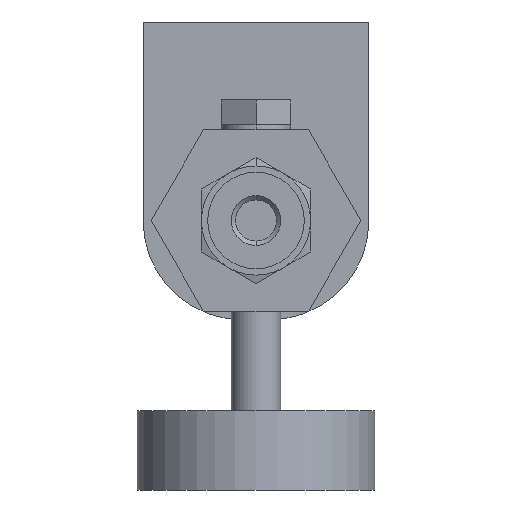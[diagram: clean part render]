
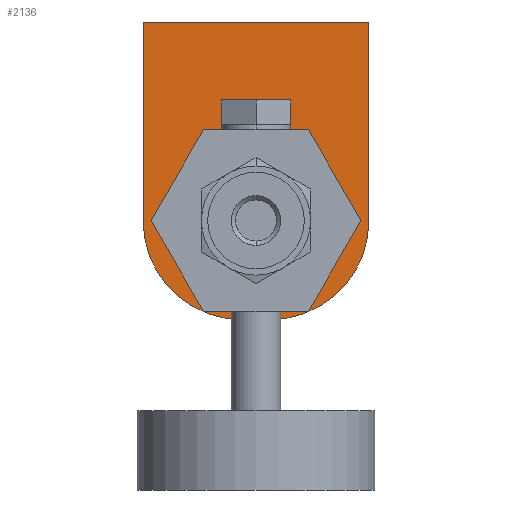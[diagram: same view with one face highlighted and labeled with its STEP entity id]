
A CAD part, front view. The second image highlights one B-rep face of the part: STEP entity #2136.
In plain terms, the highlighted planar face has unit normal (0, -1, 0).
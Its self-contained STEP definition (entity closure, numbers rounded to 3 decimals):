
#55 = VECTOR ( 'NONE', #187, 1000. ) ;
#63 = VECTOR ( 'NONE', #3833, 1000. ) ;
#68 = VECTOR ( 'NONE', #3480, 1000. ) ;
#108 = CARTESIAN_POINT ( 'NONE',  ( -10.566, 50.2, 0. ) ) ;
#115 = ORIENTED_EDGE ( 'NONE', *, *, #700, .T. ) ;
#132 = CARTESIAN_POINT ( 'NONE',  ( 11.381, 50.2, 20. ) ) ;
#187 = DIRECTION ( 'NONE',  ( 1., 0., 0. ) ) ;
#204 = CARTESIAN_POINT ( 'NONE',  ( 5.283, 50.2, -9.15 ) ) ;
#228 = CARTESIAN_POINT ( 'NONE',  ( 5.283, 50.2, 9.15 ) ) ;
#230 = EDGE_CURVE ( 'NONE', #1134, #562, #1896, .T. ) ;
#257 = EDGE_CURVE ( 'NONE', #2818, #2196, #1615, .T. ) ;
#289 = EDGE_LOOP ( 'NONE', ( #2390, #1824, #2315, #3127, #3620, #363 ) ) ;
#308 = CARTESIAN_POINT ( 'NONE',  ( 11.381, 50.2, 0. ) ) ;
#363 = ORIENTED_EDGE ( 'NONE', *, *, #1506, .T. ) ;
#385 = CARTESIAN_POINT ( 'NONE',  ( -5.283, 50.2, 9.15 ) ) ;
#438 = AXIS2_PLACEMENT_3D ( 'NONE', #1551, #3649, #1848 ) ;
#562 = VERTEX_POINT ( 'NONE', #2153 ) ;
#632 = EDGE_CURVE ( 'NONE', #3670, #959, #3581, .T. ) ;
#700 = EDGE_CURVE ( 'NONE', #1766, #562, #3015, .T. ) ;
#733 = CARTESIAN_POINT ( 'NONE',  ( 0., 50.2, -9.15 ) ) ;
#748 = FACE_BOUND ( 'NONE', #289, .T. ) ;
#761 = DIRECTION ( 'NONE',  ( 0., -1., 0. ) ) ;
#775 = CARTESIAN_POINT ( 'NONE',  ( -11.381, 50.2, 20. ) ) ;
#811 = CARTESIAN_POINT ( 'NONE',  ( 10.566, 50.2, 0. ) ) ;
#823 = CARTESIAN_POINT ( 'NONE',  ( 0., 50.2, 9.15 ) ) ;
#842 = LINE ( 'NONE', #3526, #63 ) ;
#851 = B_SPLINE_CURVE_WITH_KNOTS ( 'NONE', 3,
 ( #1675, #3481, #1984, #204 ),
 .UNSPECIFIED., .F., .F.,
 ( 4, 4 ),
 ( 0., 1. ),
 .UNSPECIFIED. ) ;
#959 = VERTEX_POINT ( 'NONE', #1660 ) ;
#986 = CARTESIAN_POINT ( 'NONE',  ( -7.044, 50.2, 6.1 ) ) ;
#1032 = B_SPLINE_CURVE_WITH_KNOTS ( 'NONE', 3,
 ( #108, #1878, #986, #3081 ),
 .UNSPECIFIED., .F., .F.,
 ( 4, 4 ),
 ( 0., 1. ),
 .UNSPECIFIED. ) ;
#1133 = CARTESIAN_POINT ( 'NONE',  ( -11.381, 50.2, -10. ) ) ;
#1134 = VERTEX_POINT ( 'NONE', #3742 ) ;
#1237 = CARTESIAN_POINT ( 'NONE',  ( -11.381, 50.2, 20. ) ) ;
#1240 = B_SPLINE_CURVE_WITH_KNOTS ( 'NONE', 3,
 ( #228, #2006, #2600, #811 ),
 .UNSPECIFIED., .F., .F.,
 ( 4, 4 ),
 ( 0., 1. ),
 .UNSPECIFIED. ) ;
#1258 = CIRCLE ( 'NONE', #438, 10. ) ;
#1452 = FACE_OUTER_BOUND ( 'NONE', #3817, .T. ) ;
#1481 = VERTEX_POINT ( 'NONE', #132 ) ;
#1491 = CARTESIAN_POINT ( 'NONE',  ( 10.566, 50.2, 0. ) ) ;
#1506 = EDGE_CURVE ( 'NONE', #3398, #3670, #3516, .T. ) ;
#1521 = CARTESIAN_POINT ( 'NONE',  ( -5.283, 50.2, -9.15 ) ) ;
#1530 = VERTEX_POINT ( 'NONE', #1237 ) ;
#1551 = CARTESIAN_POINT ( 'NONE',  ( 1.381, 50.2, 0. ) ) ;
#1572 = EDGE_CURVE ( 'NONE', #1530, #1481, #2786, .T. ) ;
#1615 = LINE ( 'NONE', #823, #55 ) ;
#1623 = VECTOR ( 'NONE', #3033, 1000. ) ;
#1660 = CARTESIAN_POINT ( 'NONE',  ( -10.566, 50.2, 0. ) ) ;
#1675 = CARTESIAN_POINT ( 'NONE',  ( 10.566, 50.2, 0. ) ) ;
#1698 = CARTESIAN_POINT ( 'NONE',  ( 0., 50.2, 0. ) ) ;
#1754 = CARTESIAN_POINT ( 'NONE',  ( -5.283, 50.2, -9.15 ) ) ;
#1766 = VERTEX_POINT ( 'NONE', #2165 ) ;
#1820 = AXIS2_PLACEMENT_3D ( 'NONE', #1698, #3788, #2002 ) ;
#1824 = ORIENTED_EDGE ( 'NONE', *, *, #1886, .T. ) ;
#1848 = DIRECTION ( 'NONE',  ( 0., 0., -1. ) ) ;
#1854 = CARTESIAN_POINT ( 'NONE',  ( -11.381, 50.2, 20. ) ) ;
#1878 = CARTESIAN_POINT ( 'NONE',  ( -8.805, 50.2, 3.05 ) ) ;
#1886 = EDGE_CURVE ( 'NONE', #959, #2818, #1032, .T. ) ;
#1896 = LINE ( 'NONE', #1133, #3228 ) ;
#1957 = ORIENTED_EDGE ( 'NONE', *, *, #1572, .F. ) ;
#1984 = CARTESIAN_POINT ( 'NONE',  ( 7.044, 50.2, -6.1 ) ) ;
#2002 = DIRECTION ( 'NONE',  ( 0., 0., -1. ) ) ;
#2006 = CARTESIAN_POINT ( 'NONE',  ( 7.044, 50.2, 6.1 ) ) ;
#2052 = EDGE_CURVE ( 'NONE', #1766, #1530, #2437, .T. ) ;
#2069 = CARTESIAN_POINT ( 'NONE',  ( -8.805, 50.2, -3.05 ) ) ;
#2107 = ORIENTED_EDGE ( 'NONE', *, *, #230, .F. ) ;
#2136 = ADVANCED_FACE ( 'NONE', ( #748, #1452 ), #2306, .T. ) ;
#2153 = CARTESIAN_POINT ( 'NONE',  ( -1.381, 50.2, -10. ) ) ;
#2165 = CARTESIAN_POINT ( 'NONE',  ( -11.381, 50.2, 0. ) ) ;
#2196 = VERTEX_POINT ( 'NONE', #3235 ) ;
#2306 = PLANE ( 'NONE',  #1820 ) ;
#2315 = ORIENTED_EDGE ( 'NONE', *, *, #257, .T. ) ;
#2328 = VERTEX_POINT ( 'NONE', #1491 ) ;
#2379 = CARTESIAN_POINT ( 'NONE',  ( -7.044, 50.2, -6.1 ) ) ;
#2390 = ORIENTED_EDGE ( 'NONE', *, *, #632, .T. ) ;
#2437 = LINE ( 'NONE', #775, #68 ) ;
#2548 = CARTESIAN_POINT ( 'NONE',  ( -1.381, 50.2, 0. ) ) ;
#2600 = CARTESIAN_POINT ( 'NONE',  ( 8.805, 50.2, 3.05 ) ) ;
#2605 = EDGE_CURVE ( 'NONE', #2196, #2328, #1240, .T. ) ;
#2652 = ORIENTED_EDGE ( 'NONE', *, *, #2052, .F. ) ;
#2677 = EDGE_CURVE ( 'NONE', #1481, #3276, #842, .T. ) ;
#2697 = VECTOR ( 'NONE', #3432, 1000. ) ;
#2786 = LINE ( 'NONE', #1854, #1623 ) ;
#2818 = VERTEX_POINT ( 'NONE', #385 ) ;
#2844 = DIRECTION ( 'NONE',  ( 0., 0., -1. ) ) ;
#3015 = CIRCLE ( 'NONE', #3420, 10. ) ;
#3033 = DIRECTION ( 'NONE',  ( 1., 0., 0. ) ) ;
#3052 = EDGE_CURVE ( 'NONE', #2328, #3398, #851, .T. ) ;
#3081 = CARTESIAN_POINT ( 'NONE',  ( -5.283, 50.2, 9.15 ) ) ;
#3092 = ORIENTED_EDGE ( 'NONE', *, *, #3712, .T. ) ;
#3127 = ORIENTED_EDGE ( 'NONE', *, *, #2605, .T. ) ;
#3227 = DIRECTION ( 'NONE',  ( -1., 0., 0. ) ) ;
#3228 = VECTOR ( 'NONE', #3227, 1000. ) ;
#3235 = CARTESIAN_POINT ( 'NONE',  ( 5.283, 50.2, 9.15 ) ) ;
#3276 = VERTEX_POINT ( 'NONE', #308 ) ;
#3398 = VERTEX_POINT ( 'NONE', #3451 ) ;
#3420 = AXIS2_PLACEMENT_3D ( 'NONE', #2548, #761, #2844 ) ;
#3432 = DIRECTION ( 'NONE',  ( -1., 0., 0. ) ) ;
#3451 = CARTESIAN_POINT ( 'NONE',  ( 5.283, 50.2, -9.15 ) ) ;
#3480 = DIRECTION ( 'NONE',  ( 0., 0., 1. ) ) ;
#3481 = CARTESIAN_POINT ( 'NONE',  ( 8.805, 50.2, -3.05 ) ) ;
#3516 = LINE ( 'NONE', #733, #2697 ) ;
#3526 = CARTESIAN_POINT ( 'NONE',  ( 11.381, 50.2, 20. ) ) ;
#3581 = B_SPLINE_CURVE_WITH_KNOTS ( 'NONE', 3,
 ( #1754, #2379, #2069, #3855 ),
 .UNSPECIFIED., .F., .F.,
 ( 4, 4 ),
 ( 0., 1. ),
 .UNSPECIFIED. ) ;
#3614 = ORIENTED_EDGE ( 'NONE', *, *, #2677, .F. ) ;
#3620 = ORIENTED_EDGE ( 'NONE', *, *, #3052, .T. ) ;
#3649 = DIRECTION ( 'NONE',  ( 0., -1., 0. ) ) ;
#3670 = VERTEX_POINT ( 'NONE', #1521 ) ;
#3712 = EDGE_CURVE ( 'NONE', #1134, #3276, #1258, .T. ) ;
#3742 = CARTESIAN_POINT ( 'NONE',  ( 1.381, 50.2, -10. ) ) ;
#3788 = DIRECTION ( 'NONE',  ( 0., -1., 0. ) ) ;
#3817 = EDGE_LOOP ( 'NONE', ( #2652, #115, #2107, #3092, #3614, #1957 ) ) ;
#3833 = DIRECTION ( 'NONE',  ( 0., 0., -1. ) ) ;
#3855 = CARTESIAN_POINT ( 'NONE',  ( -10.566, 50.2, 0. ) ) ;
